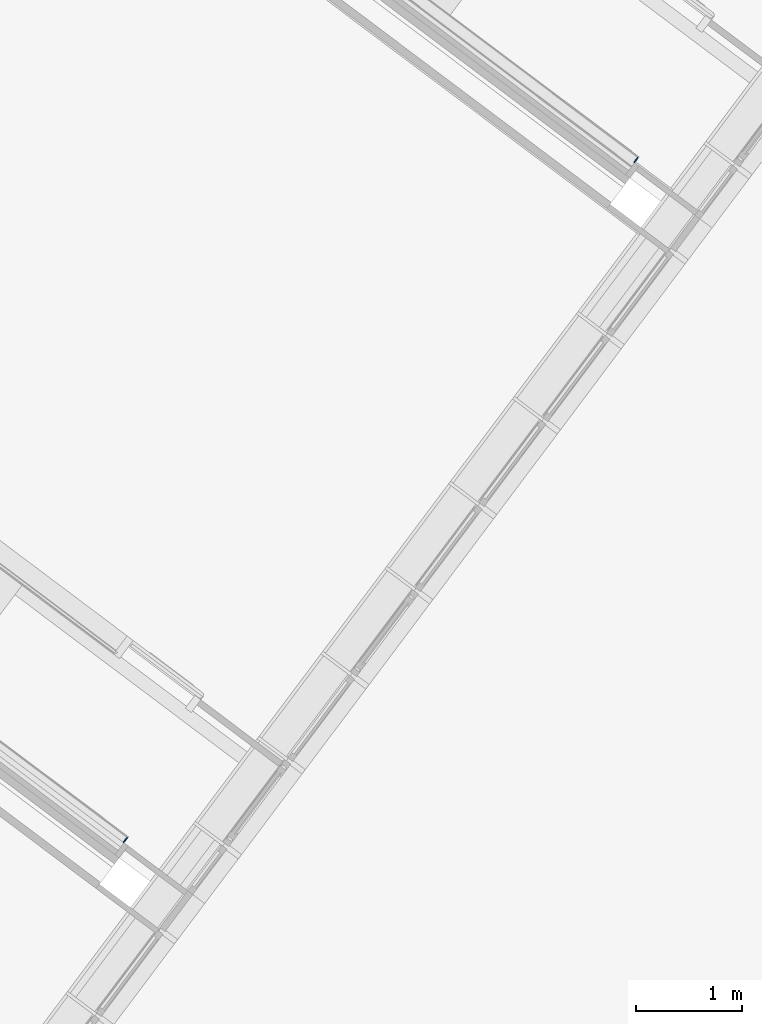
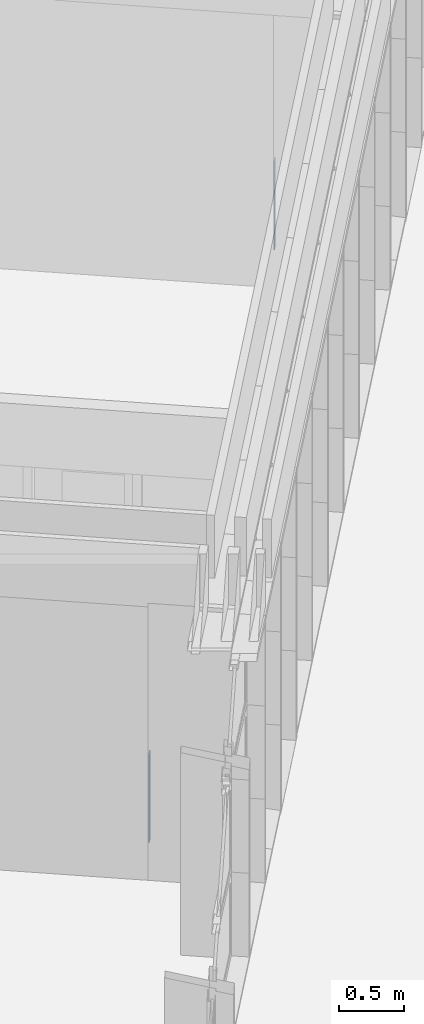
# One storey, part 135 of 243: 2 walls.
"""IFC2X3 building model written with IfcOpenShell, lengths in metres."""

import ifcopenshell
import ifcopenshell.guid

model = None  # the IFC model being written
_history = None  # IfcOwnerHistory: only IFC2X3 demands one
_inside = {}  # id of a spatial element -> (the spatial element, [elements in it])
_under = {}  # id of a project, library or spatial element -> (it, [spatial elements below it])
_declared = {}  # id of a project -> (the project, [libraries it declares])
_typed = {}  # id of a type object -> (the type object, [elements of that type])
_made_of = {}  # id of a material, layer set ... -> (it, [elements and type objects made of it])


def new_model(schema):
    """Start an empty IFC model of exactly this schema.

    Asked for "IFC4X3", IfcOpenShell would pick the latest addendum, in which some entities
    have other attributes; the version numbers below select the first issue.
    IFC2X3 requires an IfcOwnerHistory on every rooted entity: one is made here for all.
    """
    global model, _history
    if schema == "IFC4X3":
        model = ifcopenshell.file(schema_version=(4, 3, 0, 0))
    else:
        model = ifcopenshell.file(schema=schema)
    _inside.clear()
    _under.clear()
    _declared.clear()
    _typed.clear()
    _made_of.clear()
    _history = None
    if model.schema == "IFC2X3":
        org = make("IfcOrganization", Name="unknown")
        user = make(
            "IfcPersonAndOrganization",
            ThePerson=make("IfcPerson", FamilyName="unknown"),
            TheOrganization=org,
        )
        app = make(
            "IfcApplication",
            ApplicationDeveloper=org,
            Version="unknown",
            ApplicationFullName="unknown",
            ApplicationIdentifier="unknown",
        )
        _history = make(
            "IfcOwnerHistory",
            OwningUser=user,
            OwningApplication=app,
            ChangeAction="ADDED",
            CreationDate=0,
        )
    return model


def make(cls, **values):
    """One entity of the class cls with the attributes given. An attribute that is None is left unset."""
    return model.create_entity(
        cls, **{name: value for name, value in values.items() if value is not None}
    )


def entity(cls, *values):
    """Any entity or typed value of the class cls, its attributes in the order of the schema. None: left unset."""
    e = model.create_entity(cls)
    for i, value in enumerate(values):
        if value is not None:
            e[i] = value
    return e


def rooted(cls, **values):
    """An entity with a GlobalId (a new one), such as an element, a storey or a relation."""
    return make(cls, GlobalId=ifcopenshell.guid.new(), OwnerHistory=_history, **values)


def si_unit(unit_type, name, prefix=None):
    """IfcSIUnit, for example si_unit("LENGTHUNIT", "METRE", prefix="MILLI")."""
    return make("IfcSIUnit", UnitType=unit_type, Prefix=prefix, Name=name)


def converted_unit(unit_type, name, factor, base, dimensions=None, offset=None):
    """IfcConversionBasedUnit, such as the inch: factor (a typed value) times the base unit."""
    return make(
        "IfcConversionBasedUnit"
        if offset is None
        else "IfcConversionBasedUnitWithOffset",
        ConversionOffset=offset,
        Dimensions=None
        if dimensions is None
        else entity("IfcDimensionalExponents", *dimensions),
        UnitType=unit_type,
        Name=name,
        ConversionFactor=make(
            "IfcMeasureWithUnit", ValueComponent=factor, UnitComponent=base
        ),
    )


def derived_unit(unit_type, elements):
    """IfcDerivedUnit: a product of units, each with its exponent."""
    return make(
        "IfcDerivedUnit",
        Elements=[
            make("IfcDerivedUnitElement", Unit=unit, Exponent=power)
            for unit, power in elements
        ],
        UnitType=unit_type,
    )


def assignment(units):
    """IfcUnitAssignment: the units of a project."""
    return None if units is None else make("IfcUnitAssignment", Units=units)


def point(xyz):
    """IfcCartesianPoint."""
    return None if xyz is None else make("IfcCartesianPoint", Coordinates=xyz)


def direction(xyz):
    """IfcDirection."""
    return None if xyz is None else make("IfcDirection", DirectionRatios=xyz)


def frame(location, z_axis=None, x_axis=None):
    """IfcAxis2Placement3D, a coordinate frame: its origin and axes. An axis left out is left unset."""
    return make(
        "IfcAxis2Placement3D",
        Location=point(location),
        Axis=direction(z_axis),
        RefDirection=direction(x_axis),
    )


def frame_2d(location, x_axis=None):
    """IfcAxis2Placement2D, a coordinate frame in the plane: its origin and x axis."""
    return make(
        "IfcAxis2Placement2D", Location=point(location), RefDirection=direction(x_axis)
    )


def origin():
    """The frame at (0, 0, 0) with its axes left unset."""
    return frame((0.0, 0.0, 0.0))


def place(relative_to, where):
    """IfcLocalPlacement: puts the frame where relative to a parent placement (None: the world)."""
    return make(
        "IfcLocalPlacement", PlacementRelTo=relative_to, RelativePlacement=where
    )


def context(
    kind, dimensions, precision=None, world=None, true_north=None, identifier=None
):
    """IfcGeometricRepresentationContext, for example the 3D "Model" context."""
    return make(
        "IfcGeometricRepresentationContext",
        ContextIdentifier=identifier,
        ContextType=kind,
        CoordinateSpaceDimension=dimensions,
        Precision=precision,
        WorldCoordinateSystem=world,
        TrueNorth=true_north,
    )


def subcontext(parent, identifier, kind, view, scale=None):
    """IfcGeometricRepresentationSubContext, for example "Body" below "Model"."""
    return make(
        "IfcGeometricRepresentationSubContext",
        ContextIdentifier=identifier,
        ContextType=kind,
        ParentContext=parent,
        TargetScale=scale,
        TargetView=view,
    )


def project(units=None, contexts=None):
    """IfcProject with its units and contexts."""
    return rooted(
        "IfcProject",
        Name="project",
        RepresentationContexts=contexts,
        UnitsInContext=assignment(units),
    )


def spatial(cls, under=None, at=None, **own):
    """A site, building, storey or space (cls), placed at a placement, below another one or the project."""
    s = rooted(cls, ObjectPlacement=at, **own)
    if under is not None:
        _under.setdefault(under.id(), (under, []))[1].append(s)
    return s


def profile(cls, at=None, kind="AREA", **sizes):
    """A parametric profile (cls). Its sizes go by their IFC names, for example OverallWidth=200.0."""
    return make(cls, ProfileType=kind, Position=at, **sizes)


def rectangle(**sizes):
    """IfcRectangleProfileDef."""
    return profile("IfcRectangleProfileDef", **sizes)


def extrude(swept, where, along, depth):
    """IfcExtrudedAreaSolid: the profile swept, set in the frame where, extruded along a direction by depth."""
    return make(
        "IfcExtrudedAreaSolid",
        SweptArea=swept,
        Position=where,
        ExtrudedDirection=direction(along),
        Depth=depth,
    )


def shape(context_of_items, identifier, shape_type, items):
    """IfcShapeRepresentation: the items that make up one representation, for example the "Body"."""
    return make(
        "IfcShapeRepresentation",
        ContextOfItems=context_of_items,
        RepresentationIdentifier=identifier,
        RepresentationType=shape_type,
        Items=items,
    )


def material(Name=None, Category=None):
    """IfcMaterial."""
    return make("IfcMaterial", Name=Name, Category=Category)


def layer(
    of_material, thickness, ventilated=None, Name=None, Category=None, Priority=None
):
    """IfcMaterialLayer: one layer of a wall or slab, of a material (None: an air gap)."""
    return make(
        "IfcMaterialLayer",
        Material=of_material,
        LayerThickness=thickness,
        IsVentilated=ventilated,
        Name=Name,
        Category=Category,
        Priority=Priority,
    )


def layer_set(layers, Name=None):
    """IfcMaterialLayerSet."""
    return make("IfcMaterialLayerSet", MaterialLayers=layers, LayerSetName=Name)


def layer_usage(for_layer_set, set_direction, sense, offset, extent=None):
    """IfcMaterialLayerSetUsage: how a layer set lies in its element."""
    return make(
        "IfcMaterialLayerSetUsage",
        ForLayerSet=for_layer_set,
        LayerSetDirection=set_direction,
        DirectionSense=sense,
        OffsetFromReferenceLine=offset,
        ReferenceExtent=extent,
    )


def made_of(thing, what):
    """Note that an element or type object is made of a material, layer set ...; save() writes the relation."""
    if what is not None:
        _made_of.setdefault(what.id(), (what, []))[1].append(thing)
    return thing


def type_object(cls, material=None, **own):
    """A type object (cls), such as IfcWallType, which elements share."""
    return made_of(rooted(cls, **own), material)


def element(
    cls,
    number,
    at=None,
    inside=None,
    cuts=None,
    type_object=None,
    material=None,
    context=None,
    identifier="Body",
    shape_type=None,
    held_by="IfcProductDefinitionShape",
    body=None,
    shapes=None,
    **own,
):
    """One element of the class cls, such as IfcWall. Its Tag is "e" and its number.

    at: its placement. inside: the storey or other place that contains it. cuts: it is an
    opening in that element (IfcRelVoidsElement). A single representation is given by context,
    identifier, shape_type and body (its items); several are given by shapes. held_by: the class
    of the entity that holds the representations. save() writes the other relations.
    """
    e = rooted(cls, Tag="e%d" % number, ObjectPlacement=at, **own)
    if body is not None:
        shapes = [shape(context, identifier, shape_type, body)]
    if shapes is not None:
        e.Representation = make(held_by, Representations=shapes)
    if inside is not None:
        _inside.setdefault(inside.id(), (inside, []))[1].append(e)
    if cuts is not None:
        rooted(
            "IfcRelVoidsElement", RelatingBuildingElement=cuts, RelatedOpeningElement=e
        )
    if type_object is not None:
        _typed.setdefault(type_object.id(), (type_object, []))[1].append(e)
    return made_of(e, material)


def aggregate(whole, parts):
    """IfcRelAggregates: a whole, such as a stair, and the parts it consists of."""
    return rooted("IfcRelAggregates", RelatingObject=whole, RelatedObjects=parts)


def save(model, path):
    """Write the relations noted so far, then the file.

    IfcRelAggregates (storeys below a building ...), IfcRelContainedInSpatialStructure (elements
    in a storey), IfcRelDefinesByType, IfcRelAssociatesMaterial and IfcRelDeclares: one each for
    every whole, place, type object, material and project.
    """
    for whole, parts in _under.values():
        aggregate(whole, parts)
    for where, things in _inside.values():
        rooted(
            "IfcRelContainedInSpatialStructure",
            RelatedElements=things,
            RelatingStructure=where,
        )
    for kind, things in _typed.values():
        rooted("IfcRelDefinesByType", RelatedObjects=things, RelatingType=kind)
    for what, things in _made_of.values():
        rooted("IfcRelAssociatesMaterial", RelatedObjects=things, RelatingMaterial=what)
    for by, libraries in _declared.values():
        rooted("IfcRelDeclares", RelatingContext=by, RelatedDefinitions=libraries)
    model.write(path)


model = new_model("IFC2X3")

# Units and contexts
model_context = context("Model", 3, precision=1e-05, world=origin(), true_north=direction((6.123031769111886e-17, 1.0)))
body_context = subcontext(model_context, "Body", "Model", "MODEL_VIEW")
ifc_project = project(units=[si_unit("LENGTHUNIT", "METRE"), si_unit("AREAUNIT", "SQUARE_METRE"), si_unit("VOLUMEUNIT", "CUBIC_METRE"), converted_unit("PLANEANGLEUNIT", "DEGREE", entity("IfcRatioMeasure", 0.017453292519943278), si_unit("PLANEANGLEUNIT", "RADIAN"), dimensions=[0, 0, 0, 0, 0, 0, 0]), si_unit("MASSUNIT", "GRAM", prefix="KILO"), derived_unit("MASSDENSITYUNIT", [(si_unit("MASSUNIT", "GRAM", prefix="KILO"), 1), (si_unit("LENGTHUNIT", "METRE"), -3)]), derived_unit("IONCONCENTRATIONUNIT", [(si_unit("MASSUNIT", "GRAM", prefix="KILO"), 1), (si_unit("LENGTHUNIT", "METRE"), -3)]), derived_unit("MOMENTOFINERTIAUNIT", [(si_unit("LENGTHUNIT", "METRE"), 4)]), si_unit("TIMEUNIT", "SECOND"), si_unit("FREQUENCYUNIT", "HERTZ"), si_unit("THERMODYNAMICTEMPERATUREUNIT", "DEGREE_CELSIUS"), derived_unit("THERMALTRANSMITTANCEUNIT", [(si_unit("MASSUNIT", "GRAM", prefix="KILO"), 1), (si_unit("THERMODYNAMICTEMPERATUREUNIT", "KELVIN"), -1), (si_unit("TIMEUNIT", "SECOND"), -3)]), derived_unit("THERMALCONDUCTANCEUNIT", [(si_unit("MASSUNIT", "GRAM", prefix="KILO"), 1), (si_unit("THERMODYNAMICTEMPERATUREUNIT", "KELVIN"), -1), (si_unit("TIMEUNIT", "SECOND"), -3), (si_unit("LENGTHUNIT", "METRE"), 1)]), derived_unit("VOLUMETRICFLOWRATEUNIT", [(si_unit("LENGTHUNIT", "METRE"), 3), (si_unit("TIMEUNIT", "SECOND"), -1)]), derived_unit("MASSFLOWRATEUNIT", [(si_unit("MASSUNIT", "GRAM", prefix="KILO"), 1), (si_unit("TIMEUNIT", "SECOND"), -1)]), derived_unit("ROTATIONALFREQUENCYUNIT", [(si_unit("TIMEUNIT", "SECOND"), -1)]), si_unit("ELECTRICCURRENTUNIT", "AMPERE"), si_unit("ELECTRICVOLTAGEUNIT", "VOLT"), si_unit("POWERUNIT", "WATT"), si_unit("FORCEUNIT", "NEWTON", prefix="KILO"), si_unit("ILLUMINANCEUNIT", "LUX"), si_unit("LUMINOUSFLUXUNIT", "LUMEN"), si_unit("LUMINOUSINTENSITYUNIT", "CANDELA"), derived_unit("USERDEFINED", [(si_unit("MASSUNIT", "GRAM", prefix="KILO"), -1), (si_unit("LENGTHUNIT", "METRE"), -2), (si_unit("TIMEUNIT", "SECOND"), 3), (si_unit("LUMINOUSFLUXUNIT", "LUMEN"), 1)]), derived_unit("USERDEFINED", [(si_unit("MASSUNIT", "GRAM", prefix="KILO"), 1), (si_unit("TIMEUNIT", "SECOND"), -3), (si_unit("LENGTHUNIT", "METRE"), 3), (si_unit("ELECTRICCURRENTUNIT", "AMPERE"), -2)]), derived_unit("SOUNDPOWERUNIT", [(si_unit("MASSUNIT", "GRAM", prefix="KILO"), 1), (si_unit("TIMEUNIT", "SECOND"), -3), (si_unit("LENGTHUNIT", "METRE"), 2)]), derived_unit("SOUNDPRESSUREUNIT", [(si_unit("MASSUNIT", "GRAM", prefix="KILO"), 1), (si_unit("LENGTHUNIT", "METRE"), -1), (si_unit("TIMEUNIT", "SECOND"), -2)]), derived_unit("LINEARVELOCITYUNIT", [(si_unit("LENGTHUNIT", "METRE"), 1), (si_unit("TIMEUNIT", "SECOND"), -1)]), si_unit("PRESSUREUNIT", "PASCAL"), derived_unit("USERDEFINED", [(si_unit("MASSUNIT", "GRAM", prefix="KILO"), 1), (si_unit("LENGTHUNIT", "METRE"), -2), (si_unit("TIMEUNIT", "SECOND"), -2)]), derived_unit("LINEARFORCEUNIT", [(si_unit("MASSUNIT", "GRAM", prefix="KILO"), 1), (si_unit("TIMEUNIT", "SECOND"), -2)]), derived_unit("PLANARFORCEUNIT", [(si_unit("MASSUNIT", "GRAM", prefix="KILO"), 1), (si_unit("LENGTHUNIT", "METRE"), -1), (si_unit("TIMEUNIT", "SECOND"), -2)]), derived_unit("SPECIFICHEATCAPACITYUNIT", [(si_unit("THERMODYNAMICTEMPERATUREUNIT", "KELVIN"), -1), (si_unit("LENGTHUNIT", "METRE"), 2), (si_unit("TIMEUNIT", "SECOND"), -2)]), derived_unit("HEATINGVALUEUNIT", [(si_unit("LENGTHUNIT", "METRE"), 2), (si_unit("TIMEUNIT", "SECOND"), -2)]), derived_unit("VAPORPERMEABILITYUNIT", [(si_unit("LENGTHUNIT", "METRE"), -1), (si_unit("TIMEUNIT", "SECOND"), 1)]), derived_unit("DYNAMICVISCOSITYUNIT", [(si_unit("MASSUNIT", "GRAM", prefix="KILO"), 1), (si_unit("TIMEUNIT", "SECOND"), -1), (si_unit("LENGTHUNIT", "METRE"), -1)]), derived_unit("THERMALEXPANSIONCOEFFICIENTUNIT", [(si_unit("THERMODYNAMICTEMPERATUREUNIT", "KELVIN"), -1)]), derived_unit("MODULUSOFELASTICITYUNIT", [(si_unit("MASSUNIT", "GRAM", prefix="KILO"), 1), (si_unit("LENGTHUNIT", "METRE"), -1), (si_unit("TIMEUNIT", "SECOND"), -2)]), derived_unit("ISOTHERMALMOISTURECAPACITYUNIT", [(si_unit("LENGTHUNIT", "METRE"), 3), (si_unit("MASSUNIT", "GRAM", prefix="KILO"), -1)]), derived_unit("MOISTUREDIFFUSIVITYUNIT", [(si_unit("TIMEUNIT", "SECOND"), -1), (si_unit("LENGTHUNIT", "METRE"), 2)])], contexts=[model_context])

# Site, building, storey
site_placement = place(None, frame((0.0, 0.0, 235.0), z_axis=(0.0, 0.0, 1.0), x_axis=(-0.7996477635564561, 0.6004693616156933, 0.0)))
site = spatial("IfcSite", under=ifc_project, at=site_placement, Name="Default", CompositionType="ELEMENT")
building_placement = place(site_placement, origin())
building = spatial("IfcBuilding", under=site, at=building_placement, CompositionType="ELEMENT")
storey_placement = place(building_placement, origin())
storey = spatial("IfcBuildingStorey", under=building, at=storey_placement, Name="P0- Escola", CompositionType="ELEMENT", Elevation=0.0)

# Walls
ifc_material = material(Name="_Vinílic- REV")
ifc_layer = layer(ifc_material, 0.01)
ifc_layer_set = layer_set([ifc_layer], Name="Muro básico:REV- Vinilic- T1- 1 cm")
ifc_layer_usage = layer_usage(ifc_layer_set, "AXIS2", "NEGATIVE", 0.005)
wall_type = type_object("IfcWallType", Name="Muro básico:REV- Vinilic- T1- 1 cm", PredefinedType="STANDARD", material=ifc_layer_set)
for number, where, z_axis, x_axis, name in (
    (1, (6.7001476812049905, -26.500191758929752, 0.0), (0.0, 0.0, 1.0), (0.0, 1.0, 0.0), "Muro básico:REV- Vinilic- T1- 1 cm"),
    (2, (6.7001476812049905, -34.50019175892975, 0.0), (0.0, 0.0, 1.0), (0.0, 1.0, 0.0), "Muro básico:REV- Vinilic- T1- 1 cm"),
):
    element("IfcWallStandardCase", number, at=place(storey_placement, frame(where, z_axis=z_axis, x_axis=x_axis)), inside=storey, type_object=wall_type, material=ifc_layer_usage, Name=name, ObjectType="Muro básico:REV- Vinilic- T1- 1 cm", context=body_context, shape_type="SweptSolid", body=[
        extrude(rectangle(XDim=0.06000000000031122, YDim=0.009999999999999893, at=frame_2d((0.03000000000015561, 0.0), x_axis=(-1.0, 0.0))), origin(), (0.0, 0.0, 1.0), 0.8299999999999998),
    ])

save(model, "model.ifc")
